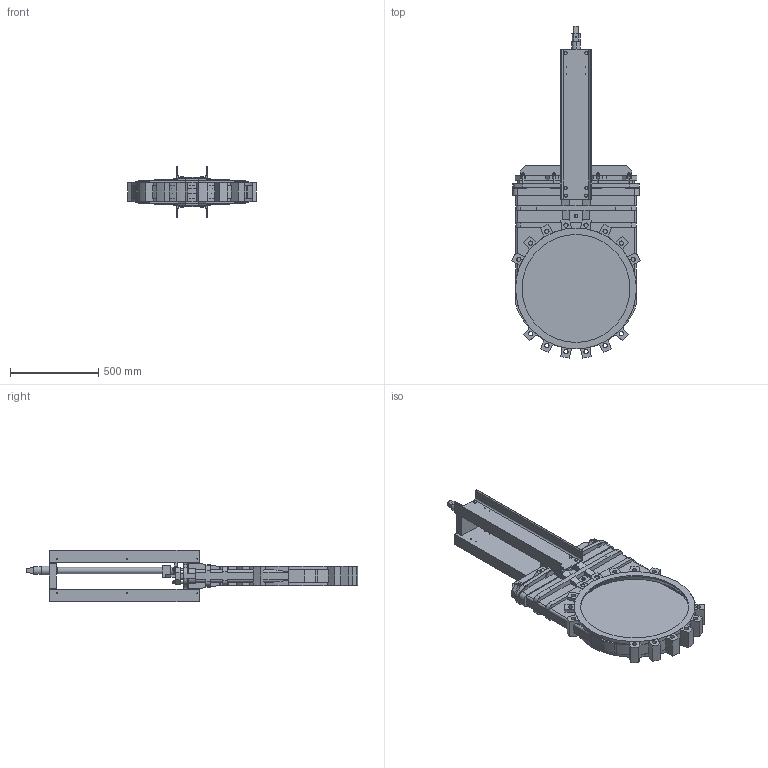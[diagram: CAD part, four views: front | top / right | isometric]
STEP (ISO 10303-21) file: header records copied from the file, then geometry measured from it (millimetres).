
FILE_DESCRIPTION (( 'STEP AP203' ), '1' );
FILE_NAME ('VG S N DN600.STEP', '2010-05-04T07:17:07', ( 'farex' ), ( '' ), 'SwSTEP 2.0', 'SolidWorks 2009', '' );
FILE_SCHEMA (( 'CONFIG_CONTROL_DESIGN' ));
Products named in the file (1): VG S N DN600
Bounding box: 724.39 x 1877.17 x 290 mm (x, y, z)
Volume: 42466411.7 mm3; surface area: 3570884 mm2
Topology: 2 solids, 2 shells, 1140 faces, 3068 edges, 2002 vertices
Faces by surface type: plane 667, cylinder 321, cone 103, bspline 33, torus 16
Entity records: 38786 total; most frequent: CARTESIAN_POINT 9820, ORIENTED_EDGE 6136, DIRECTION 5891, EDGE_CURVE 3068, VERTEX_POINT 2002, AXIS2_PLACEMENT_3D 1999, VECTOR 1893, LINE 1893
